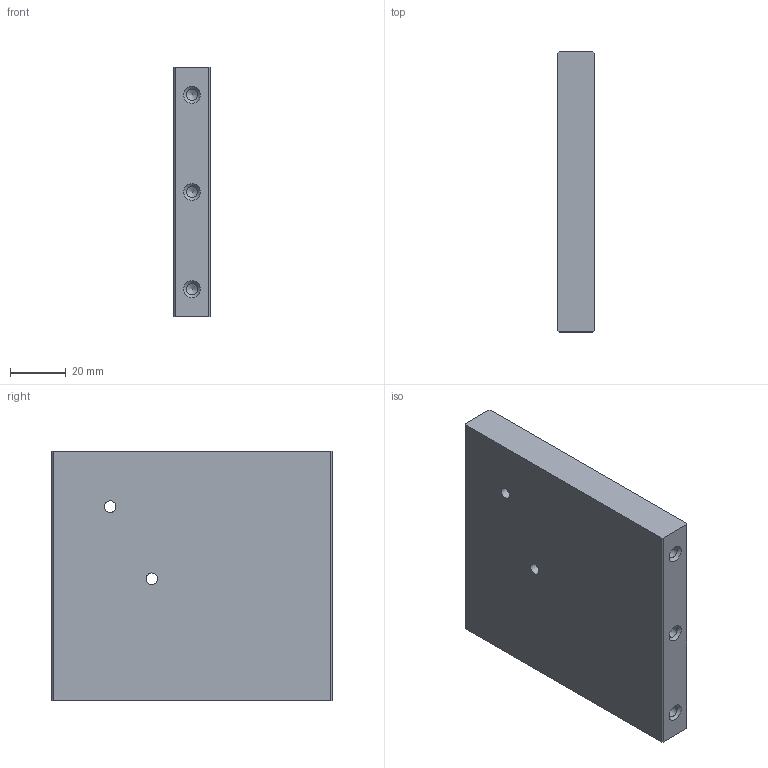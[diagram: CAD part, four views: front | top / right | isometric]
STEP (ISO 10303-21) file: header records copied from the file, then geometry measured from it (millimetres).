
FILE_DESCRIPTION(('STEP AP203'), '1');
FILE_NAME('眐珆1801.01.07.05.009 - 栺鍣罻', '', ('UNSPECIFIED'), ('UNSPECIFIED'), 'C3D Converter', 'C3D Toolkit', '');
FILE_SCHEMA(('CONFIG_CONTROL_DESIGN'));
Length unit declared in the file: millimetre
Products named in the file (1): ТППФ1801.01.07.05.009-01
Bounding box: 13 x 101 x 90 mm (x, y, z)
Volume: 116474.4 mm3; surface area: 24455.4 mm2
Topology: 1 solids, 1 shells, 32 faces, 76 edges, 46 vertices
Faces by surface type: cone 14, plane 10, cylinder 8
Full cylindrical faces by diameter (mm): 4.134 x8
Entity records: 1047 total; most frequent: DIRECTION 138, CARTESIAN_POINT 121, ORIENTED_EDGE 96, EDGE_LOOP 58, AXIS2_PLACEMENT_3D 57, EDGE_CURVE 48, VERTEX_POINT 40, FACE_OUTER_BOUND 38
